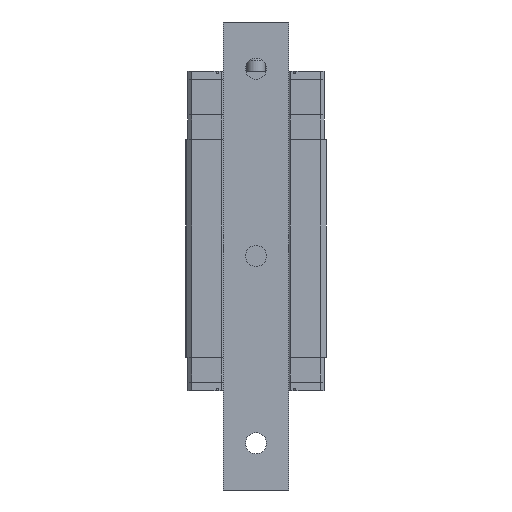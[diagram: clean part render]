
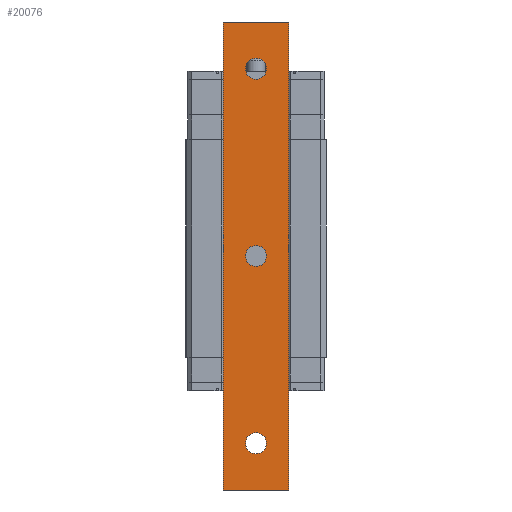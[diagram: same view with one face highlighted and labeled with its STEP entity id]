
A CAD part, front view. The second image highlights one B-rep face of the part: STEP entity #20076.
In plain terms, the highlighted planar face has unit normal (0, -1, 0).
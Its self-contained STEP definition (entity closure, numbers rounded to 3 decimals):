
#327 = ORIENTED_EDGE ( 'NONE', *, *, #11441, .F. ) ;
#654 = CARTESIAN_POINT ( 'NONE',  ( -14., -5.5, -100. ) ) ;
#1462 = EDGE_LOOP ( 'NONE', ( #25271, #18666 ) ) ;
#1948 = EDGE_LOOP ( 'NONE', ( #12546, #18284, #9656, #13682 ) ) ;
#2328 = DIRECTION ( 'NONE',  ( 0., 0., -1. ) ) ;
#2822 = DIRECTION ( 'NONE',  ( 0., 0., -1. ) ) ;
#3148 = CARTESIAN_POINT ( 'NONE',  ( 0., -5.5, 80. ) ) ;
#3493 = EDGE_CURVE ( 'NONE', #9243, #5281, #14072, .T. ) ;
#3610 = CIRCLE ( 'NONE', #26705, 4.5 ) ;
#3780 = VERTEX_POINT ( 'NONE', #9322 ) ;
#3803 = CARTESIAN_POINT ( 'NONE',  ( 0., -5.5, 80. ) ) ;
#5281 = VERTEX_POINT ( 'NONE', #20472 ) ;
#5345 = DIRECTION ( 'NONE',  ( 0., -1., 0. ) ) ;
#5569 = EDGE_CURVE ( 'NONE', #15217, #3780, #7843, .T. ) ;
#6466 = FACE_OUTER_BOUND ( 'NONE', #1948, .T. ) ;
#7001 = CARTESIAN_POINT ( 'NONE',  ( -14., -5.5, 100. ) ) ;
#7213 = DIRECTION ( 'NONE',  ( 0., 0., -1. ) ) ;
#7291 = DIRECTION ( 'NONE',  ( 0., 0., -1. ) ) ;
#7596 = VECTOR ( 'NONE', #7213, 1000. ) ;
#7619 = DIRECTION ( 'NONE',  ( 0., -1., 0. ) ) ;
#7672 = AXIS2_PLACEMENT_3D ( 'NONE', #3148, #19591, #2822 ) ;
#7830 = DIRECTION ( 'NONE',  ( 0., 0., -1. ) ) ;
#7843 = CIRCLE ( 'NONE', #28745, 4.5 ) ;
#7955 = CIRCLE ( 'NONE', #7672, 4.5 ) ;
#7979 = EDGE_CURVE ( 'NONE', #20756, #17577, #26105, .T. ) ;
#8085 = LINE ( 'NONE', #21309, #19904 ) ;
#8603 = PLANE ( 'NONE',  #28556 ) ;
#9243 = VERTEX_POINT ( 'NONE', #18350 ) ;
#9322 = CARTESIAN_POINT ( 'NONE',  ( 0., -5.5, 4.5 ) ) ;
#9586 = EDGE_CURVE ( 'NONE', #19048, #17577, #8085, .T. ) ;
#9656 = ORIENTED_EDGE ( 'NONE', *, *, #7979, .F. ) ;
#11333 = VECTOR ( 'NONE', #24089, 1000. ) ;
#11427 = EDGE_CURVE ( 'NONE', #3780, #15217, #3610, .T. ) ;
#11441 = EDGE_CURVE ( 'NONE', #30484, #16286, #7955, .T. ) ;
#11595 = CARTESIAN_POINT ( 'NONE',  ( 0., -5.5, -4.5 ) ) ;
#12376 = CARTESIAN_POINT ( 'NONE',  ( 0., -5.5, 0. ) ) ;
#12546 = ORIENTED_EDGE ( 'NONE', *, *, #15048, .T. ) ;
#12776 = CARTESIAN_POINT ( 'NONE',  ( 0., -5.5, 0. ) ) ;
#12979 = DIRECTION ( 'NONE',  ( 0., -1., 0. ) ) ;
#13479 = FACE_BOUND ( 'NONE', #19396, .T. ) ;
#13682 = ORIENTED_EDGE ( 'NONE', *, *, #15143, .F. ) ;
#14072 = CIRCLE ( 'NONE', #14390, 4.5 ) ;
#14390 = AXIS2_PLACEMENT_3D ( 'NONE', #16846, #19033, #7291 ) ;
#14808 = CARTESIAN_POINT ( 'NONE',  ( 14., -5.5, 100. ) ) ;
#15048 = EDGE_CURVE ( 'NONE', #28811, #19048, #15407, .T. ) ;
#15143 = EDGE_CURVE ( 'NONE', #28811, #20756, #16518, .T. ) ;
#15217 = VERTEX_POINT ( 'NONE', #11595 ) ;
#15407 = LINE ( 'NONE', #7001, #22834 ) ;
#16282 = CARTESIAN_POINT ( 'NONE',  ( 0., -5.5, 84.5 ) ) ;
#16286 = VERTEX_POINT ( 'NONE', #16282 ) ;
#16518 = LINE ( 'NONE', #21968, #11333 ) ;
#16819 = AXIS2_PLACEMENT_3D ( 'NONE', #3803, #17687, #22272 ) ;
#16846 = CARTESIAN_POINT ( 'NONE',  ( 0., -5.5, -80. ) ) ;
#17193 = FACE_BOUND ( 'NONE', #1462, .T. ) ;
#17577 = VERTEX_POINT ( 'NONE', #24084 ) ;
#17687 = DIRECTION ( 'NONE',  ( 0., -1., 0. ) ) ;
#17703 = EDGE_CURVE ( 'NONE', #16286, #30484, #22074, .T. ) ;
#17871 = CARTESIAN_POINT ( 'NONE',  ( -14., -5.5, 100. ) ) ;
#18284 = ORIENTED_EDGE ( 'NONE', *, *, #9586, .T. ) ;
#18350 = CARTESIAN_POINT ( 'NONE',  ( 0., -5.5, -75.5 ) ) ;
#18666 = ORIENTED_EDGE ( 'NONE', *, *, #11427, .F. ) ;
#19033 = DIRECTION ( 'NONE',  ( 0., -1., 0. ) ) ;
#19048 = VERTEX_POINT ( 'NONE', #654 ) ;
#19396 = EDGE_LOOP ( 'NONE', ( #24785, #20829 ) ) ;
#19591 = DIRECTION ( 'NONE',  ( 0., -1., 0. ) ) ;
#19904 = VECTOR ( 'NONE', #24034, 1000. ) ;
#20076 = ADVANCED_FACE ( 'NONE', ( #13479, #17193, #22038, #6466 ), #8603, .F. ) ;
#20267 = EDGE_CURVE ( 'NONE', #5281, #9243, #24462, .T. ) ;
#20472 = CARTESIAN_POINT ( 'NONE',  ( 0., -5.5, -84.5 ) ) ;
#20657 = DIRECTION ( 'NONE',  ( 0., 1., 0. ) ) ;
#20756 = VERTEX_POINT ( 'NONE', #14808 ) ;
#20829 = ORIENTED_EDGE ( 'NONE', *, *, #3493, .F. ) ;
#21050 = ORIENTED_EDGE ( 'NONE', *, *, #17703, .F. ) ;
#21309 = CARTESIAN_POINT ( 'NONE',  ( -14., -5.5, -100. ) ) ;
#21968 = CARTESIAN_POINT ( 'NONE',  ( -14., -5.5, 100. ) ) ;
#22038 = FACE_BOUND ( 'NONE', #29614, .T. ) ;
#22074 = CIRCLE ( 'NONE', #16819, 4.5 ) ;
#22125 = DIRECTION ( 'NONE',  ( 0., 0., -1. ) ) ;
#22272 = DIRECTION ( 'NONE',  ( 0., 0., -1. ) ) ;
#22649 = DIRECTION ( 'NONE',  ( 0., 0., -1. ) ) ;
#22834 = VECTOR ( 'NONE', #2328, 1000. ) ;
#22872 = DIRECTION ( 'NONE',  ( -1., 0., 0. ) ) ;
#24034 = DIRECTION ( 'NONE',  ( 1., 0., 0. ) ) ;
#24084 = CARTESIAN_POINT ( 'NONE',  ( 14., -5.5, -100. ) ) ;
#24089 = DIRECTION ( 'NONE',  ( 1., 0., 0. ) ) ;
#24152 = CARTESIAN_POINT ( 'NONE',  ( 0., -5.5, 75.5 ) ) ;
#24462 = CIRCLE ( 'NONE', #28852, 4.5 ) ;
#24785 = ORIENTED_EDGE ( 'NONE', *, *, #20267, .F. ) ;
#25271 = ORIENTED_EDGE ( 'NONE', *, *, #5569, .F. ) ;
#25943 = CARTESIAN_POINT ( 'NONE',  ( -14., -5.5, 100. ) ) ;
#26105 = LINE ( 'NONE', #28322, #7596 ) ;
#26705 = AXIS2_PLACEMENT_3D ( 'NONE', #12376, #7619, #7830 ) ;
#28322 = CARTESIAN_POINT ( 'NONE',  ( 14., -5.5, 100. ) ) ;
#28556 = AXIS2_PLACEMENT_3D ( 'NONE', #17871, #20657, #22872 ) ;
#28745 = AXIS2_PLACEMENT_3D ( 'NONE', #12776, #12979, #22125 ) ;
#28811 = VERTEX_POINT ( 'NONE', #25943 ) ;
#28852 = AXIS2_PLACEMENT_3D ( 'NONE', #28862, #5345, #22649 ) ;
#28862 = CARTESIAN_POINT ( 'NONE',  ( 0., -5.5, -80. ) ) ;
#29614 = EDGE_LOOP ( 'NONE', ( #327, #21050 ) ) ;
#30484 = VERTEX_POINT ( 'NONE', #24152 ) ;
